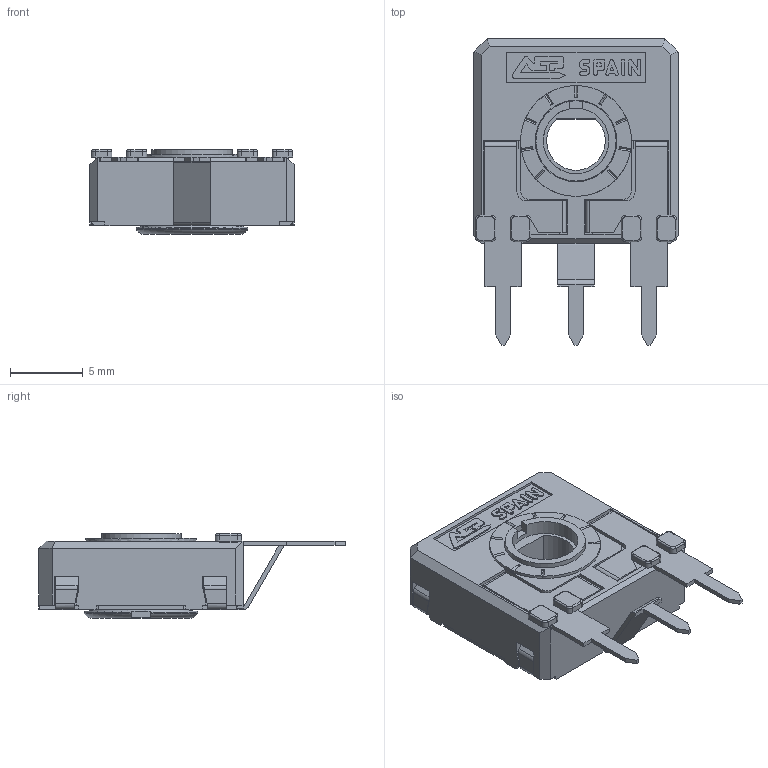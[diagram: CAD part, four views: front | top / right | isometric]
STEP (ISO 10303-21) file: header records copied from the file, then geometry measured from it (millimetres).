
FILE_DESCRIPTION(/* description */ (''),/* implementation_level */ '2;1');
FILE_NAME(/* name */ '\\SERVERACP\intercambio\Ignacio Santa Cecilia\Nueva WEB 2025\CA14 - CE14\CA14FH0 RT-RO.stp',/* time_stamp */ '2025-06-12T09:53:26+02:00',/* author */ ('CEM'),/* organization */ (''),/* preprocessor_version */ 'ST-DEVELOPER v17',/* originating_system */ 'Autodesk Inventor 2018',/* authorisation */ '');
FILE_SCHEMA (('AUTOMOTIVE_DESIGN { 1 0 10303 214 3 1 1 }'));
Length unit declared in the file: millimetre
Products named in the file (1): CARCASA CA14 PGA
Bounding box: 14 x 21 x 5.8 mm (x, y, z)
Volume: 530.4 mm3; surface area: 1464.5 mm2
Topology: 1 solids, 1 shells, 661 faces, 1867 edges, 1202 vertices
Faces by surface type: plane 490, cylinder 134, torus 23, bspline 8, cone 6
Full cylindrical faces by diameter (mm): 4.5 x1, 5.5 x1, 5.6 x1, 5.752 x1, 6.8 x1, 7.6 x1
Entity records: 21585 total; most frequent: CARTESIAN_POINT 4028, ORIENTED_EDGE 3734, DIRECTION 3484, EDGE_CURVE 1867, LINE 1468, VECTOR 1468, VERTEX_POINT 1202, AXIS2_PLACEMENT_3D 1008
